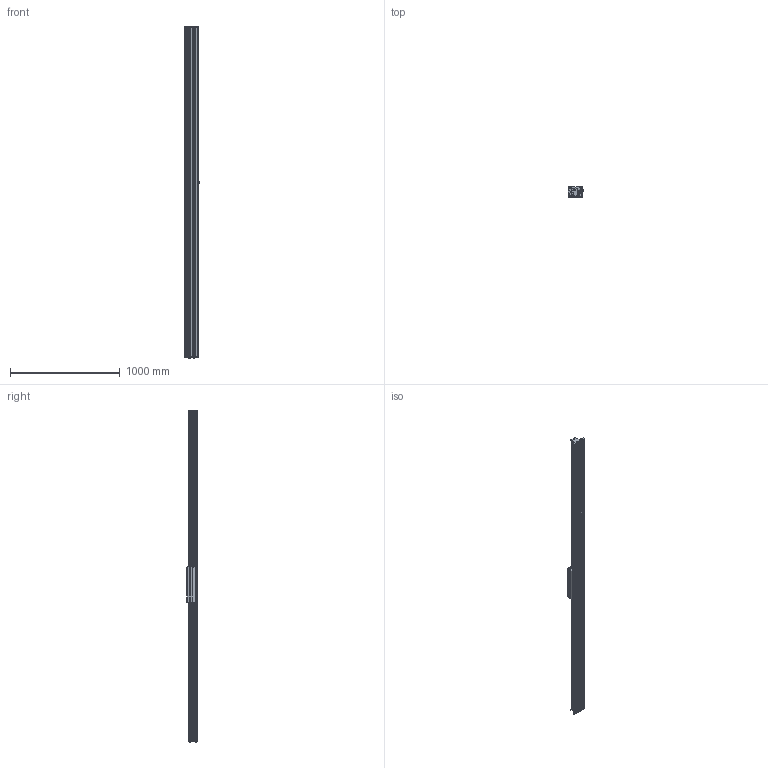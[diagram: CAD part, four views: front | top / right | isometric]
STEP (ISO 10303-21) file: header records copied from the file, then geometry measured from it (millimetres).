
FILE_DESCRIPTION (( 'STEP AP214' ), '1' );
FILE_NAME ('SINADRIVES Linear motor stage MLL20400XS-XX-1-0-ST-00-03012.STEP', '2015-07-06T11:55:29', ( 'Tecnico' ), ( '' ), 'SwSTEP 2.0', 'SolidWorks 2009', '' );
FILE_SCHEMA (( 'AUTOMOTIVE_DESIGN' ));
Length unit declared in the file: millimetre
Products named in the file (7): SINADRIVES PROFILE MLL2XXXX-2996; SINADRIVES CARRIAGE MLL20400XS-1; CARRIAGE MLL20400; Connector power+signal Y-tec 45; SINADRIVES ENDBLOCK MLL2; SINADRIVES ENDBLOCK MLL2-2; SINADRIVES Linear motor stage MLL20400XS-XX-1-0-ST-00-03012
Assembly tree (6 placements, depth 3):
  SINADRIVES Linear motor stage MLL20400XS-XX-1-0-ST-00-03012
    SINADRIVES PROFILE MLL2XXXX-2996
    SINADRIVES ENDBLOCK MLL2
    SINADRIVES ENDBLOCK MLL2-2
    SINADRIVES CARRIAGE MLL20400XS-1
      CARRIAGE MLL20400
      Connector power+signal Y-tec 45
Bounding box: 144.43 x 91 x 3020.8 mm (x, y, z)
Volume: 13796979.8 mm3; surface area: 2367265.1 mm2
Topology: 2 solids, 42 shells, 950 faces, 2640 edges, 1730 vertices
Faces by surface type: plane 445, cylinder 302, bspline 79, cone 70, torus 42, sphere 12
Entity records: 40587 total; most frequent: CARTESIAN_POINT 8656, ORIENTED_EDGE 5024, DIRECTION 4947, EDGE_CURVE 2622, AXIS2_PLACEMENT_3D 1781, VERTEX_POINT 1730, LINE 1385, VECTOR 1385
